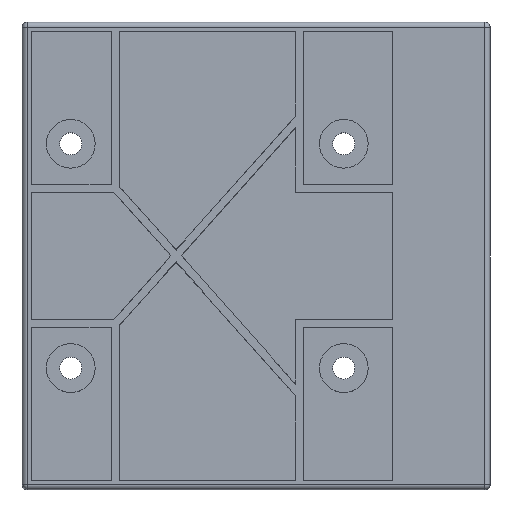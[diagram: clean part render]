
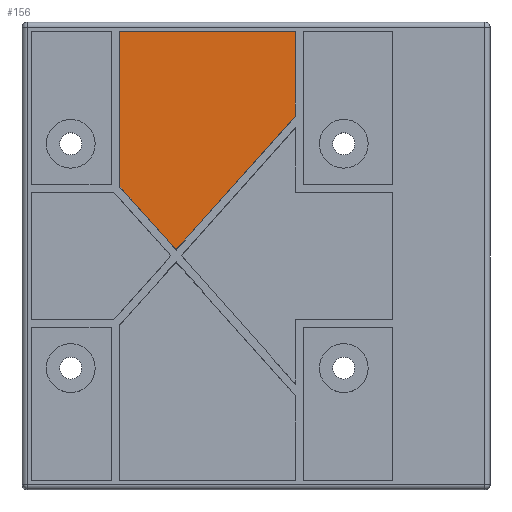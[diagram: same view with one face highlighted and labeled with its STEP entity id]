
A CAD part, top view. The second image highlights one B-rep face of the part: STEP entity #156.
In plain terms, the highlighted planar face has unit normal (0, 0, 1).
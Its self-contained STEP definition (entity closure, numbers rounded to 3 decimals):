
#156=ADVANCED_FACE('',(#2197),#2204,.T.);
#737=VERTEX_POINT('',#739);
#739=CARTESIAN_POINT('',(-28.014,46.014,
   1.6));
#741=EDGE_CURVE('',#737,#746,#742,.F.);
#742=LINE('',#743,#744);
#743=CARTESIAN_POINT('',(0.,46.014,1.6));
#744=VECTOR('',#745,1.);
#745=DIRECTION('',(-1.,0.,0.));
#746=VERTEX_POINT('',#747);
#747=CARTESIAN_POINT('',(8.014,46.014,
   1.6));
#2017=EDGE_CURVE('',#746,#2022,#2018,.T.);
#2018=LINE('',#2019,#2020);
#2019=CARTESIAN_POINT('',(8.014,46.,1.6));
#2020=VECTOR('',#2021,1.);
#2021=DIRECTION('',(0.,-1.,0.));
#2022=VERTEX_POINT('',#2023);
#2023=CARTESIAN_POINT('',(8.014,28.698,
   1.6));
#2040=EDGE_CURVE('',#2022,#2045,#2041,.T.);
#2041=LINE('',#2042,#2043);
#2042=CARTESIAN_POINT('',(0.667,20.453,
   1.6));
#2043=VECTOR('',#2044,1.);
#2044=DIRECTION('',(-0.665,-0.747,
   0.));
#2045=VERTEX_POINT('',#2046);
#2046=CARTESIAN_POINT('',(-16.393,1.309,
   1.6));
#2063=EDGE_CURVE('',#2045,#2068,#2064,.T.);
#2064=LINE('',#2065,#2066);
#2065=CARTESIAN_POINT('',(-43.729,31.983,
   1.6));
#2066=VECTOR('',#2067,1.);
#2067=DIRECTION('',(-0.665,0.747,0.
   ));
#2068=VERTEX_POINT('',#2069);
#2069=CARTESIAN_POINT('',(-28.014,14.349,
   1.6));
#2086=EDGE_CURVE('',#2068,#737,#2087,.T.);
#2087=LINE('',#2088,#2089);
#2088=CARTESIAN_POINT('',(-28.014,46.,1.6));
#2089=VECTOR('',#2090,1.);
#2090=DIRECTION('',(0.,1.,0.));
#2197=FACE_OUTER_BOUND('',#2198,.T.);
#2198=EDGE_LOOP('',(#2199,#2200,#2201,#2202,#2203));
#2199=ORIENTED_EDGE('',*,*,#741,.F.);
#2200=ORIENTED_EDGE('',*,*,#2086,.F.);
#2201=ORIENTED_EDGE('',*,*,#2063,.F.);
#2202=ORIENTED_EDGE('',*,*,#2040,.F.);
#2203=ORIENTED_EDGE('',*,*,#2017,.F.);
#2204=PLANE('',#2205);
#2205=AXIS2_PLACEMENT_3D('',#2206,#2207,#2208);
#2206=CARTESIAN_POINT('',(-28.,46.,1.6));
#2207=DIRECTION('',(0.,0.,1.));
#2208=DIRECTION('',(1.,0.,0.));
